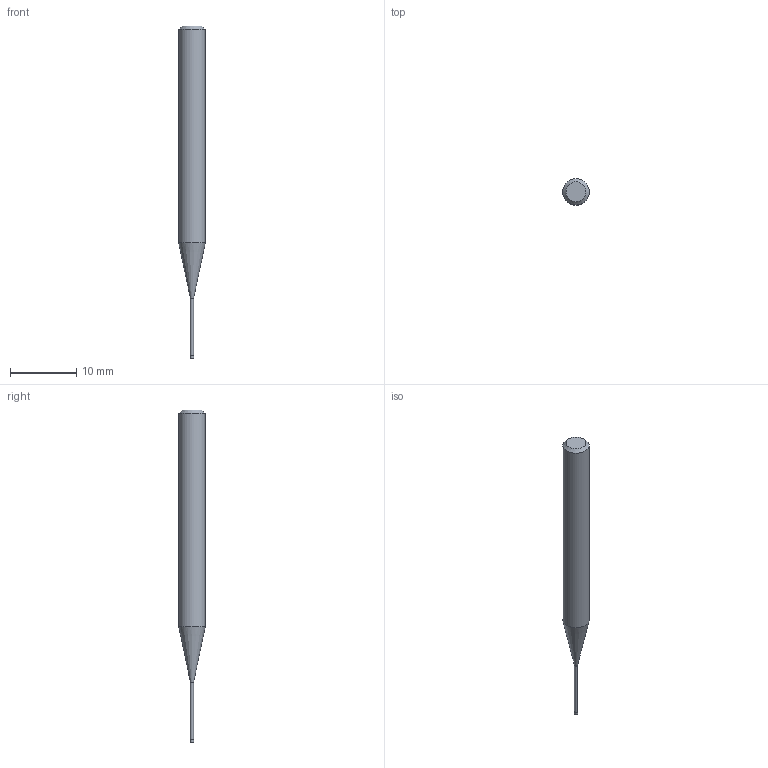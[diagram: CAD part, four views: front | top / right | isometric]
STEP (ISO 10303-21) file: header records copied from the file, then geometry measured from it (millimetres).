
FILE_DESCRIPTION((''),'2;1');
FILE_NAME('C:\Users\nsx150\AppData\Local\Temp\Mastercam 2021\RJ5U8K7RMU\TEMP.step','2021-04-21T16:40:19',(''),(''),'STEP Write','Mastercam 2021 ... CNC Software, Inc.','');
FILE_SCHEMA(('AUTOMOTIVE_DESIGN'));
Length unit declared in the file: millimetre
Products named in the file (1): None
Bounding box: 4 x 4 x 50 mm (x, y, z)
Volume: 450 mm3; surface area: 492.4 mm2
Topology: 2 solids, 2 shells, 9 faces, 12 edges, 7 vertices
Faces by surface type: plane 4, cylinder 3, cone 2
Full cylindrical faces by diameter (mm): 0.46 x1, 0.5 x1, 4 x1
Entity records: 211 total; most frequent: DIRECTION 36, CARTESIAN_POINT 25, AXIS2_PLACEMENT_3D 18, ORIENTED_EDGE 14, EDGE_LOOP 14, STYLED_ITEM 12, ADVANCED_FACE 9, FACE_BOUND 8
